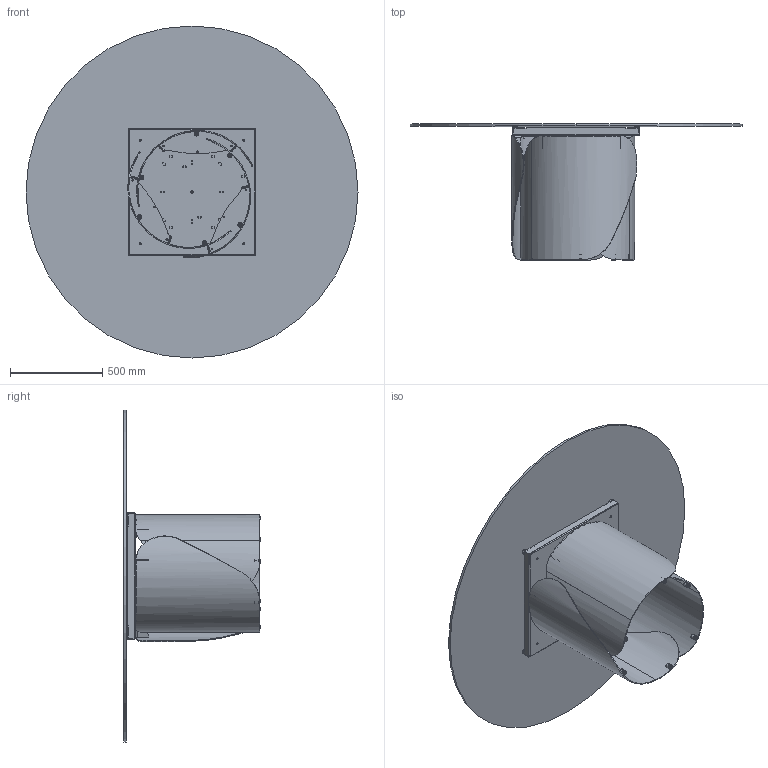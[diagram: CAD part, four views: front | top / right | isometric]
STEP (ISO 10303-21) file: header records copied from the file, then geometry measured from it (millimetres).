
FILE_DESCRIPTION (( 'STEP AP203' ), '1' );
FILE_NAME ('ON13G.STEP', '2024-08-06T13:32:19', ( '' ), ( '' ), 'SwSTEP 2.0', 'SolidWorks 2022', '' );
FILE_SCHEMA (( 'CONFIG_CONTROL_DESIGN' ));
Length unit declared in the file: millimetre
Products named in the file (15): PIEDINO PER ONDA; COLLO BASE ONDA SINGOLA CON FERRAMENTA; OND000000-03-ONDA BASE GREZZA; ON13G; TTAV0801-02-TELAIO UNIVERSALE TONDO; COLLO TELAIO UNIVERSALE TTAV0801 CON FERRAMENTA_MTG TOP CRISTALLO VERNICIATO-CERAMICA; OND000000_02-00-CILINDRO DI FISSAGGIO Ø25X17 M8; TTAV0801-02-TELAIO UNIVERSALE TONDO-VASSOIO; OND000000_03-00-LAMIERA CURVATA PRINCIPALE_OND00000X-00-ONDA BASE GREZZA PROTOTIPO; OND000000_01-00-PIASTRA SUPERIORE BASE ONDA; C1XCRMXX-00-piani Rotondi Cristallo_C13 D.180cm; M8xXXmm_M8x20mm; TTAV0801 TELAIO UNIVERSALE TONDO-PIASTRINA; rondella M8_8X24; 434070-00-PIEDINO TPV GOMMA NERO D. 30x8max18_filo estetico
Assembly tree (46 placements, depth 4):
  ON13G
    COLLO TELAIO UNIVERSALE TTAV0801 CON FERRAMENTA_MTG TOP CRISTALLO VERNICIATO-CERAMICA
      TTAV0801-02-TELAIO UNIVERSALE TONDO
        TTAV0801-02-TELAIO UNIVERSALE TONDO-VASSOIO
        TTAV0801 TELAIO UNIVERSALE TONDO-PIASTRINA  x4
      434070-00-PIEDINO TPV GOMMA NERO D. 30x8max18_filo estetico  x4
    COLLO BASE ONDA SINGOLA CON FERRAMENTA  x3
      OND000000-03-ONDA BASE GREZZA
        OND000000_03-00-LAMIERA CURVATA PRINCIPALE_OND00000X-00-ONDA BASE GREZZA PROTOTIPO
        OND000000_01-00-PIASTRA SUPERIORE BASE ONDA
        OND000000_02-00-CILINDRO DI FISSAGGIO Ø25X17 M8  x2
      PIEDINO PER ONDA
    rondella M8_8X24  x12
    M8xXXmm_M8x20mm  x12
    C1XCRMXX-00-piani Rotondi Cristallo_C13 D.180cm
Bounding box: 1800 x 738 x 1800 mm (x, y, z)
Volume: 41317137.3 mm3; surface area: 9797411.4 mm2
Topology: 62 solids, 62 shells, 1545 faces, 3651 edges, 2266 vertices
Faces by surface type: plane 626, cylinder 543, torus 184, cone 132, bspline 60
Entity records: 19338 total; most frequent: CARTESIAN_POINT 4513, DIRECTION 2655, ORIENTED_EDGE 2532, EDGE_CURVE 1266, AXIS2_PLACEMENT_3D 968, VERTEX_POINT 816, LINE 719, VECTOR 719
